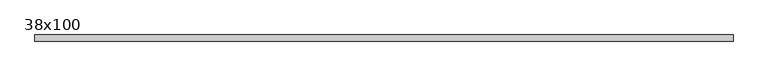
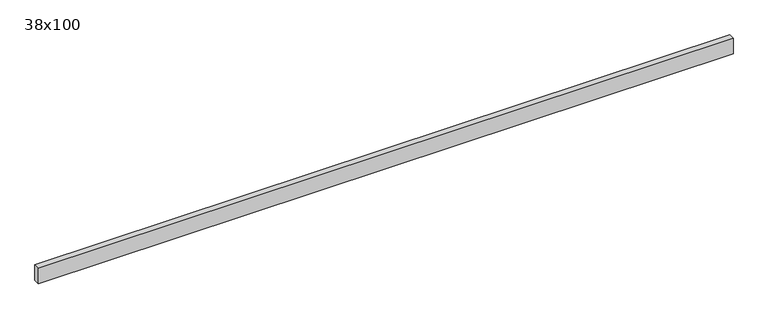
"""IFC4 building model written with IfcOpenShell, lengths in millimetres: beam geometry, Poutre - Bois de construction de dimensions courantes : 38x100."""

from ifc_helpers import new_model, si_unit, frame, origin, place, context, project, spatial, polyline, outline, extrude, source, transform, mapped, element, save


def beam_38x100_23929782(model_context):
    return source(origin(), model_context, "Body", "SweptSolid", [
        extrude(outline(polyline([(2156.5, 19.05), (2156.5, -19.05), (-2156.5, -19.05), (-2156.5, 19.05), (2156.5, 19.05)])), frame((0.0, 0.0, -50.0), z_axis=(0.0, 0.0, 1.0), x_axis=(1.0, 0.0, 0.0)), (0.0, 0.0, 1.0), 100.0),
    ])


if __name__ == "__main__":
    model = new_model("IFC4")
    model_context = context("Model", 3, world=origin())
    ifc_project = project(units=[si_unit("LENGTHUNIT", "METRE", prefix="MILLI")], contexts=[model_context])
    site = spatial("IfcSite", under=ifc_project)
    building = spatial("IfcBuilding", under=site)
    placement = place(None, origin())
    beam_38x100_shape = beam_38x100_23929782(model_context)
    element("IfcBeam", 1, ObjectType="Poutre - Bois de construction de dimensions courantes : 38x100", at=placement, inside=building, context=model_context, shape_type="MappedRepresentation", body=[
        mapped(beam_38x100_shape, transform((0.0, 0.0, 0.0), x_axis=(1.0, 0.0, 0.0), y_axis=(0.0, 1.0, 0.0), z_axis=(0.0, 0.0, 1.0))),
    ])
    save(model, "model.ifc")
